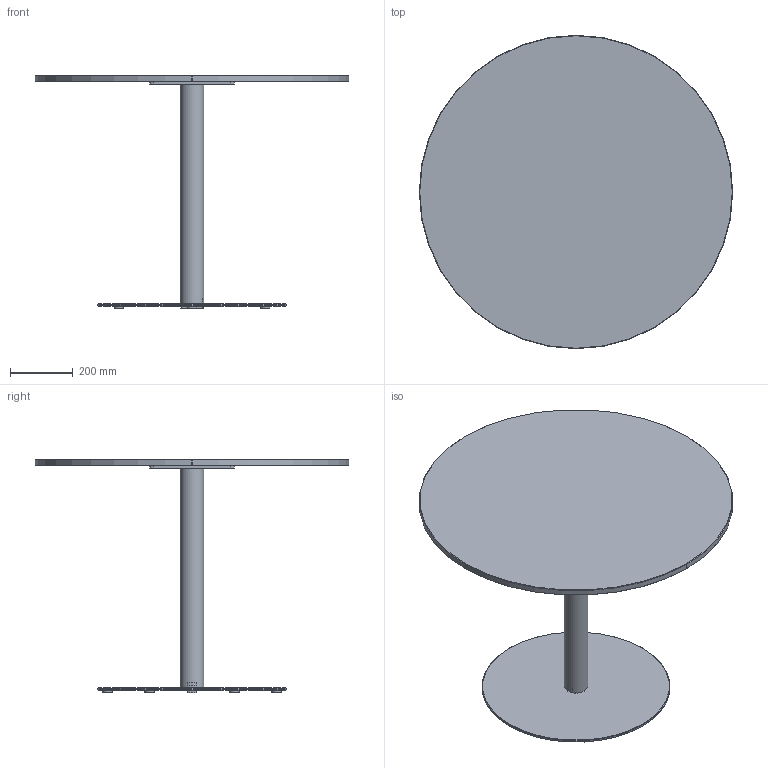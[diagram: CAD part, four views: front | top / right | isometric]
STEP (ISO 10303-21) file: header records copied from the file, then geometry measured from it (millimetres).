
FILE_DESCRIPTION( ('This file contains a STEP AP42 implementation' ,'as created by ZW3D STEP Interface translator.') ,'2;1' );
FILE_NAME( 'Henri - B_Rond - F1 - M1 - 1000 x 1000 x 750.stp' ,'24 912.15 742', (''), ('ZWCAD Software Co.'), 'Version 1.0', 'ZW3D to STEP translator', '' );
FILE_SCHEMA(('AUTOMOTIVE_DESIGN { 1 0 10303 214 1 1 1 1 }'));
Length unit declared in the file: millimetre
Products named in the file (14): 0; PIED BISTROT PARAMETRIQUE_; COLONNE ACIER Ø76 V.02_; TUB-D076-02_; PLA-R76B-01_; CROIX ACIER 370 V.02_; CRX-X370-02_; SOCLE ACIER C Ø600 V.02_; SCL-D600-02_; PLA-R30A-01_; PLA-R30A-01; WUERTH 0276063020 Euro-screw 6.3x2 Verzinkt_; PLATEAU BISTROT PARAMETRIQUE_; insert_m6_13_
Assembly tree (24 placements, depth 3):
  0
  PIED BISTROT PARAMETRIQUE_
    COLONNE ACIER Ø76 V.02_
      TUB-D076-02_
      PLA-R76B-01_  x2
    CROIX ACIER 370 V.02_
      CRX-X370-02_
    SOCLE ACIER C Ø600 V.02_
      SCL-D600-02_
      PLA-R30A-01_
      PLA-R30A-01  x5
    WUERTH 0276063020 Euro-screw 6.3x2 Verzinkt_
    PLATEAU BISTROT PARAMETRIQUE_
      insert_m6_13_  x8
Bounding box: 1000 x 1000 x 744 mm (x, y, z)
Volume: 18920381.7 mm3; surface area: 2734053.7 mm2
Topology: 21 solids, 21 shells, 524 faces, 1273 edges, 802 vertices
Faces by surface type: plane 254, bspline 121, cylinder 99, cone 49, torus 1
Full cylindrical faces by diameter (mm): 4.88 x1, 6 x8, 6.3 x1, 8 x47, 12 x2, 14 x2, 30 x6, 72 x1, 76 x1, 600 x1
Entity records: 11734 total; most frequent: CARTESIAN_POINT 3302, ORIENTED_EDGE 1526, DIRECTION 1424, EDGE_CURVE 763, VERTEX_POINT 490, VECTOR 476, LINE 476, AXIS2_PLACEMENT_3D 474
